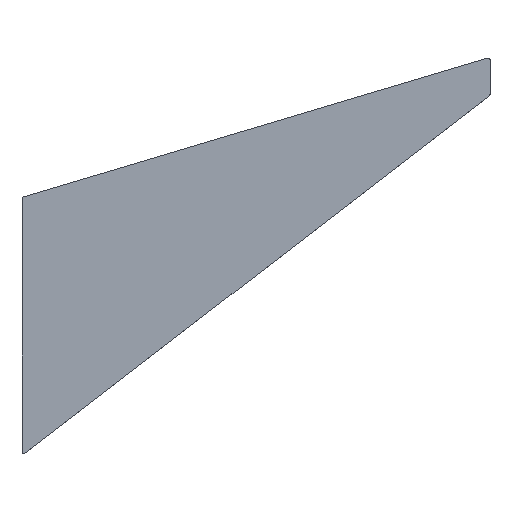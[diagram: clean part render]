
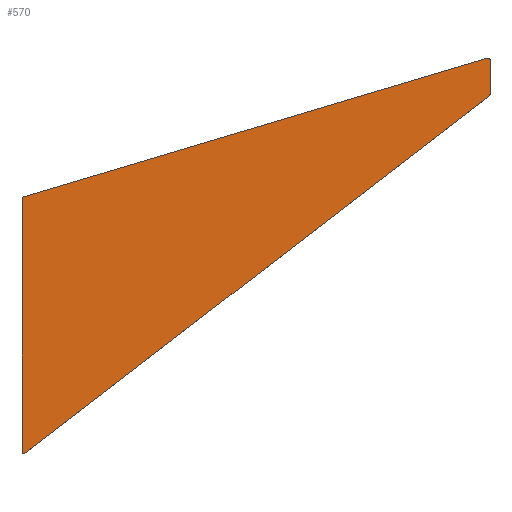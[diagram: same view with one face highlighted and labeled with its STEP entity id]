
A CAD part, top view. The second image highlights one B-rep face of the part: STEP entity #570.
In plain terms, the highlighted planar face has unit normal (0, 0, 1).
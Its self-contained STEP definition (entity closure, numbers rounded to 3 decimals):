
#280=PLANE('',#554);
#282=CIRCLE('',#539,3.);
#284=CIRCLE('',#543,3.);
#286=CIRCLE('',#547,3.);
#288=CIRCLE('',#551,3.);
#329=ORIENTED_EDGE('',*,*,#388,.T.);
#330=ORIENTED_EDGE('',*,*,#408,.F.);
#331=ORIENTED_EDGE('',*,*,#406,.F.);
#332=ORIENTED_EDGE('',*,*,#403,.F.);
#333=ORIENTED_EDGE('',*,*,#400,.F.);
#334=ORIENTED_EDGE('',*,*,#397,.T.);
#335=ORIENTED_EDGE('',*,*,#394,.F.);
#336=ORIENTED_EDGE('',*,*,#391,.F.);
#341=VECTOR('',#441,1.);
#345=VECTOR('',#453,1.);
#349=VECTOR('',#465,1.);
#352=VECTOR('',#476,1.);
#357=LINE('',#499,#341);
#361=LINE('',#511,#345);
#365=LINE('',#523,#349);
#368=LINE('',#532,#352);
#370=VERTEX_POINT('',#487);
#372=VERTEX_POINT('',#491);
#374=VERTEX_POINT('',#496);
#376=VERTEX_POINT('',#502);
#378=VERTEX_POINT('',#508);
#380=VERTEX_POINT('',#514);
#382=VERTEX_POINT('',#520);
#384=VERTEX_POINT('',#526);
#388=EDGE_CURVE('',#370,#372,#282,.T.);
#391=EDGE_CURVE('',#370,#374,#357,.T.);
#394=EDGE_CURVE('',#374,#376,#284,.T.);
#397=EDGE_CURVE('',#378,#376,#361,.T.);
#400=EDGE_CURVE('',#378,#380,#286,.T.);
#403=EDGE_CURVE('',#380,#382,#365,.T.);
#406=EDGE_CURVE('',#382,#384,#288,.T.);
#408=EDGE_CURVE('',#384,#372,#368,.T.);
#418=EDGE_LOOP('',(#329,#330,#331,#332,#333,#334,#335,#336));
#428=FACE_BOUND('',#418,.T.);
#435=DIRECTION('',(0.,0.,1.));
#436=DIRECTION('',(0.,3.,0.));
#441=DIRECTION('',(0.,-61.668,0.));
#447=DIRECTION('',(0.,0.,-1.));
#448=DIRECTION('',(0.,-3.,0.));
#453=DIRECTION('',(824.,634.565,0.));
#459=DIRECTION('',(0.,0.,-1.));
#460=DIRECTION('',(0.,-3.,0.));
#465=DIRECTION('',(0.,449.935,0.));
#471=DIRECTION('',(0.,0.,-1.));
#472=DIRECTION('',(0.,-3.,0.));
#476=DIRECTION('',(824.,246.298,0.));
#479=DIRECTION('',(0.,0.,1.));
#480=DIRECTION('',(0.,-1.,0.));
#487=CARTESIAN_POINT('',(5804.504,13862.332,40.));
#491=CARTESIAN_POINT('',(5800.644,13865.206,40.));
#493=CARTESIAN_POINT('',(5801.504,13862.332,40.));
#496=CARTESIAN_POINT('',(5804.504,13800.664,40.));
#499=CARTESIAN_POINT('',(5804.504,13862.332,40.));
#502=CARTESIAN_POINT('',(5803.334,13798.287,40.));
#505=CARTESIAN_POINT('',(5801.504,13800.664,40.));
#508=CARTESIAN_POINT('',(4979.334,13163.722,40.));
#511=CARTESIAN_POINT('',(4979.334,13163.722,40.));
#514=CARTESIAN_POINT('',(4974.504,13166.099,40.));
#517=CARTESIAN_POINT('',(4977.504,13166.099,40.));
#520=CARTESIAN_POINT('',(4974.504,13616.034,40.));
#523=CARTESIAN_POINT('',(4974.504,13166.099,40.));
#526=CARTESIAN_POINT('',(4976.644,13618.909,40.));
#529=CARTESIAN_POINT('',(4977.504,13616.034,40.));
#532=CARTESIAN_POINT('',(4976.644,13618.909,40.));
#534=CARTESIAN_POINT('',(0.,0.,40.));
#539=AXIS2_PLACEMENT_3D('',#493,#435,#436);
#543=AXIS2_PLACEMENT_3D('',#505,#447,#448);
#547=AXIS2_PLACEMENT_3D('',#517,#459,#460);
#551=AXIS2_PLACEMENT_3D('',#529,#471,#472);
#554=AXIS2_PLACEMENT_3D('',#534,#479,#480);
#570=ADVANCED_FACE('',(#428),#280,.T.);
